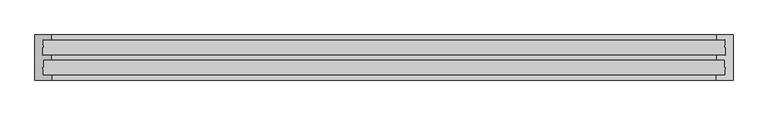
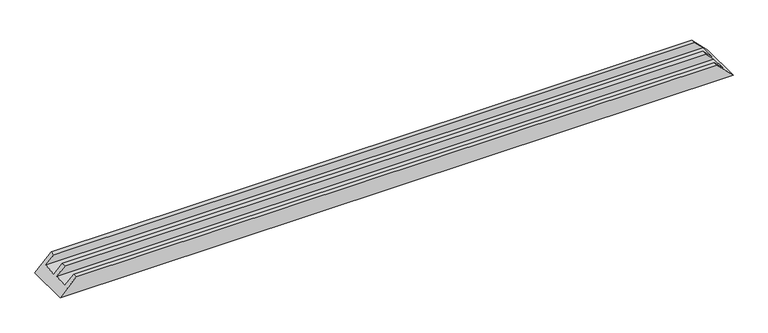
"""IFC4 building model written with IfcOpenShell, lengths in millimetres: proxy geometry, Weiku - Montante - Caixilho triplo 02.2.01.003 : Weiku - Montante - Caixilho triplo 02.2.01.003."""

from ifc_helpers import new_model, si_unit, origin, place, context, project, spatial, faceted_brep, source, transform, mapped, element, save


def generic_models_5bd61e8b(model_context):
    return source(origin(), model_context, "Body", "Brep", [
        faceted_brep([(-1049.5, -15.0, 26.0), (1049.5, -15.0, 26.0), (1023.5, -15.0, 52.0), (-1023.5, -15.0, 52.0), (-1051.7229744, -62.0, 23.7770256), (1051.7229744, -62.0, 23.7770256), (-1023.5, -62.0, 52.0), (1023.5, -62.0, 52.0), (-1023.5, -77.0, 52.0), (1023.5, -77.0, 52.0), (-1075.5, -139.0, 0.0), (-1075.5, 0.0, 0.0), (1075.5, 0.0, 0.0), (1075.5, -139.0, 0.0), (-1023.5, 0.0, 52.0), (1023.5, 0.0, 52.0), (-1023.5, -139.0, 52.0), (-1023.5, -124.0, 52.0), (-1051.7229744, -124.0, 23.7770256), (-1049.5, -77.0, 26.0), (1049.5, -77.0, 26.0), (1051.7229744, -124.0, 23.7770256), (1023.5, -124.0, 52.0), (1023.5, -139.0, 52.0)], [[[0, 1, 2, 3]], [[4, 5, 1, 0]], [[6, 7, 5, 4]], [[8, 9, 7, 6]], [[10, 11, 12, 13]], [[11, 14, 15, 12]], [[3, 2, 15, 14]], [[3, 14, 11, 10, 16, 17, 18, 19, 8, 6, 4, 0]], [[1, 5, 7, 9, 20, 21, 22, 23, 13, 12, 15, 2]], [[19, 20, 9, 8]], [[18, 21, 20, 19]], [[17, 22, 21, 18]], [[16, 23, 22, 17]], [[13, 23, 16, 10]]]),
    ])


if __name__ == "__main__":
    model = new_model("IFC4")
    model_context = context("Model", 3, world=origin())
    ifc_project = project(units=[si_unit("LENGTHUNIT", "METRE", prefix="MILLI")], contexts=[model_context])
    site = spatial("IfcSite", under=ifc_project)
    building = spatial("IfcBuilding", under=site)
    placement = place(None, origin())
    generic_models_shape = generic_models_5bd61e8b(model_context)
    element("IfcBuildingElementProxy", 1, Name="Weiku - Montante - Caixilho triplo 02.2.01.003 : Weiku - Montante - Caixilho triplo 02.2.01.003", ObjectType="Weiku - Montante - Caixilho triplo 02.2.01.003 : Weiku - Montante - Caixilho triplo 02.2.01.003", at=placement, inside=building, context=model_context, shape_type="MappedRepresentation", body=[
        mapped(generic_models_shape, transform((0.0, 0.0, 0.0), x_axis=(1.0, 0.0, 0.0), y_axis=(0.0, 1.0, 0.0), z_axis=(0.0, 0.0, 1.0))),
    ])
    save(model, "model.ifc")
